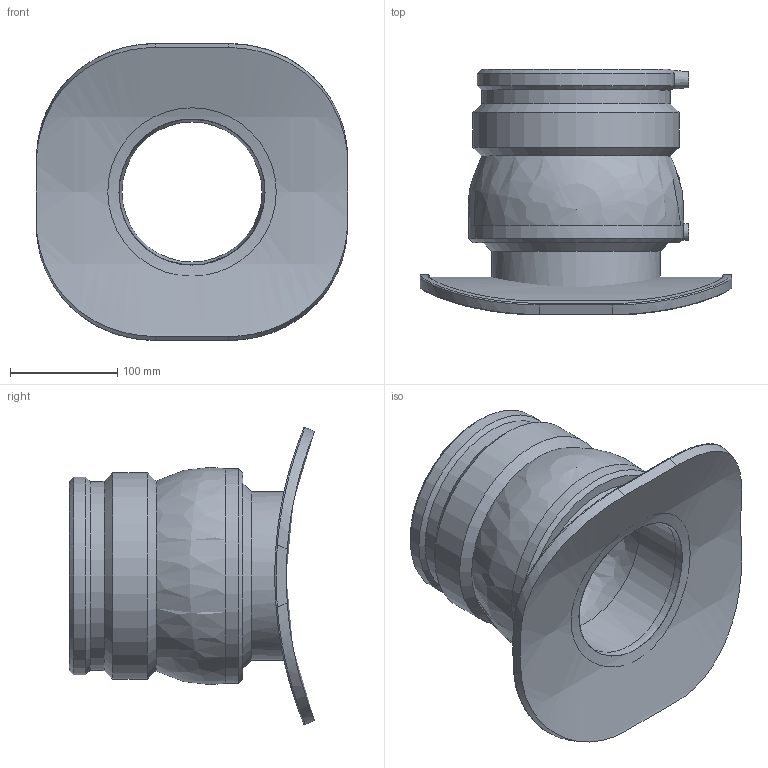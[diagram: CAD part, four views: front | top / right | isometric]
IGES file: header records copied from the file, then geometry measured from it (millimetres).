
Global section: file name: 475804710160.ipt; native system: Autodesk Inventor 2015; preprocessor: unknown; author: Кирилл,,11,0; organization: 20170830.161326; date: 20171106.093500; units: millimetre
Bounding box: 290 x 228.45 x 276.32 mm (x, y, z)
Volume: 2564057.9 mm3; surface area: 370273.7 mm2
Topology: 2 solids, 2 shells, 69 faces, 162 edges, 104 vertices
Faces by surface type: plane 17, cylinder 17, revolution 17, bspline 9, cone 8, sphere 1
Full cylindrical faces by diameter (mm): 4 x2, 156.8 x1, 176 x1, 192 x1
